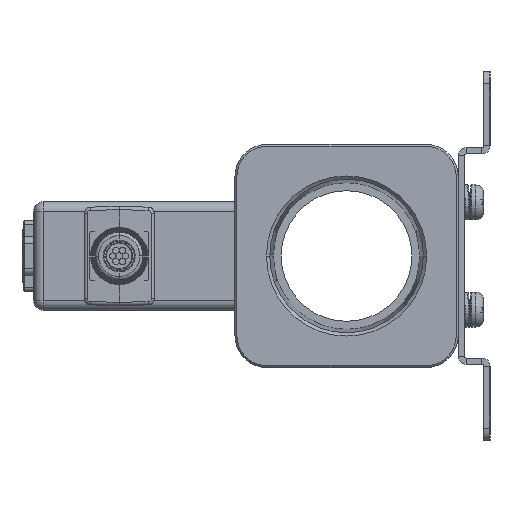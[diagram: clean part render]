
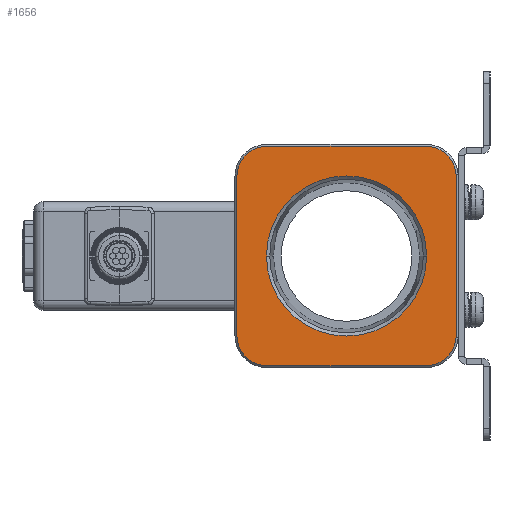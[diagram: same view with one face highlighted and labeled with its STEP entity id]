
A CAD part, left-side view. The second image highlights one B-rep face of the part: STEP entity #1656.
In plain terms, the highlighted planar face has unit normal (-1, 0, 0).
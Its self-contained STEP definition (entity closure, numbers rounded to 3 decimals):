
#1656=ADVANCED_FACE('',(#4022,#4023),#4024,.F.);
#4022=FACE_BOUND('',#7211,.T.);
#4023=FACE_OUTER_BOUND('',#7212,.T.);
#4024=PLANE('',#7213);
#7211=EDGE_LOOP('',(#15965,#15966));
#7212=EDGE_LOOP('',(#15967,#15968,#15969,#15970,#15971,#15972,#15973,#15974));
#7213=AXIS2_PLACEMENT_3D('',#15975,#15976,#15977);
#15965=ORIENTED_EDGE('',*,*,#24432,.T.);
#15966=ORIENTED_EDGE('',*,*,#24075,.T.);
#15967=ORIENTED_EDGE('',*,*,#23670,.T.);
#15968=ORIENTED_EDGE('',*,*,#24686,.T.);
#15969=ORIENTED_EDGE('',*,*,#24687,.T.);
#15970=ORIENTED_EDGE('',*,*,#24124,.T.);
#15971=ORIENTED_EDGE('',*,*,#24475,.T.);
#15972=ORIENTED_EDGE('',*,*,#24688,.T.);
#15973=ORIENTED_EDGE('',*,*,#24689,.T.);
#15974=ORIENTED_EDGE('',*,*,#24690,.T.);
#15975=CARTESIAN_POINT('',(-45.0,0.0,0.0));
#15976=DIRECTION('',(1.0,0.0,0.0));
#15977=DIRECTION('',(0.0,1.0,0.0));
#23670=EDGE_CURVE('',#28162,#28167,#28169,.T.);
#24075=EDGE_CURVE('',#28859,#28864,#28866,.T.);
#24124=EDGE_CURVE('',#28942,#28947,#28949,.T.);
#24432=EDGE_CURVE('',#28864,#28859,#29429,.T.);
#24475=EDGE_CURVE('',#28947,#29489,#29491,.T.);
#24686=EDGE_CURVE('',#28167,#29819,#29820,.T.);
#24687=EDGE_CURVE('',#29819,#28942,#29821,.T.);
#24688=EDGE_CURVE('',#29489,#29822,#29823,.T.);
#24689=EDGE_CURVE('',#29822,#29824,#29825,.T.);
#24690=EDGE_CURVE('',#29824,#28162,#29826,.T.);
#28162=VERTEX_POINT('',#35319);
#28167=VERTEX_POINT('',#35325);
#28169=CIRCLE('',#35328,4.7);
#28859=VERTEX_POINT('',#36272);
#28864=VERTEX_POINT('',#36278);
#28866=CIRCLE('',#36281,12.559);
#28942=VERTEX_POINT('',#36388);
#28947=VERTEX_POINT('',#36395);
#28949=LINE('',#36398,#36399);
#29429=CIRCLE('',#37065,12.559);
#29489=VERTEX_POINT('',#37151);
#29491=CIRCLE('',#37154,4.7);
#29819=VERTEX_POINT('',#37604);
#29820=LINE('',#37605,#37606);
#29821=CIRCLE('',#37607,4.7);
#29822=VERTEX_POINT('',#37608);
#29823=LINE('',#37609,#37610);
#29824=VERTEX_POINT('',#37611);
#29825=CIRCLE('',#37612,4.7);
#29826=LINE('',#37613,#37614);
#35319=CARTESIAN_POINT('',(-45.,-12.5,-17.2));
#35325=CARTESIAN_POINT('',(-45.0,-17.2,-12.5));
#35328=AXIS2_PLACEMENT_3D('',#50589,#50590,#50591);
#36272=CARTESIAN_POINT('',(-45.0,-12.559,0.0));
#36278=CARTESIAN_POINT('',(-45.0,12.559,0.0));
#36281=AXIS2_PLACEMENT_3D('',#51052,#51053,#51054);
#36388=CARTESIAN_POINT('',(-45.0,-12.5,17.2));
#36395=CARTESIAN_POINT('',(-45.,12.5,17.2));
#36398=CARTESIAN_POINT('',(-45.,-12.5,17.2));
#36399=VECTOR('',#51104,1.0);
#37065=AXIS2_PLACEMENT_3D('',#51468,#51469,#51470);
#37151=CARTESIAN_POINT('',(-45.0,17.2,12.5));
#37154=AXIS2_PLACEMENT_3D('',#51510,#51511,#51512);
#37604=CARTESIAN_POINT('',(-45.,-17.2,12.5));
#37605=CARTESIAN_POINT('',(-45.,-17.2,-12.5));
#37606=VECTOR('',#51776,1.0);
#37607=AXIS2_PLACEMENT_3D('',#51777,#51778,#51779);
#37608=CARTESIAN_POINT('',(-45.,17.2,-12.5));
#37609=CARTESIAN_POINT('',(-45.,17.2,12.5));
#37610=VECTOR('',#51780,1.0);
#37611=CARTESIAN_POINT('',(-45.,12.5,-17.2));
#37612=AXIS2_PLACEMENT_3D('',#51781,#51782,#51783);
#37613=CARTESIAN_POINT('',(-45.,12.5,-17.2));
#37614=VECTOR('',#51784,1.0);
#50589=CARTESIAN_POINT('',(-45.0,-12.5,-12.5));
#50590=DIRECTION('',(-1.0,0.0,0.0));
#50591=DIRECTION('',(0.0,0.0,-1.0));
#51052=CARTESIAN_POINT('',(-45.0,0.0,0.0));
#51053=DIRECTION('',(1.0,0.0,0.0));
#51054=DIRECTION('',(0.0,-1.0,0.0));
#51104=DIRECTION('',(0.,1.0,0.));
#51468=CARTESIAN_POINT('',(-45.0,0.0,0.0));
#51469=DIRECTION('',(1.0,0.0,0.0));
#51470=DIRECTION('',(0.0,1.0,0.0));
#51510=CARTESIAN_POINT('',(-45.0,12.5,12.5));
#51511=DIRECTION('',(-1.0,0.0,0.0));
#51512=DIRECTION('',(0.0,0.0,1.0));
#51776=DIRECTION('',(0.,0.,1.0));
#51777=CARTESIAN_POINT('',(-45.0,-12.5,12.5));
#51778=DIRECTION('',(-1.0,0.0,0.0));
#51779=DIRECTION('',(0.0,-1.0,0.0));
#51780=DIRECTION('',(0.,0.,-1.0));
#51781=CARTESIAN_POINT('',(-45.0,12.5,-12.5));
#51782=DIRECTION('',(-1.0,0.0,0.0));
#51783=DIRECTION('',(0.0,1.0,0.0));
#51784=DIRECTION('',(0.,-1.0,0.));
